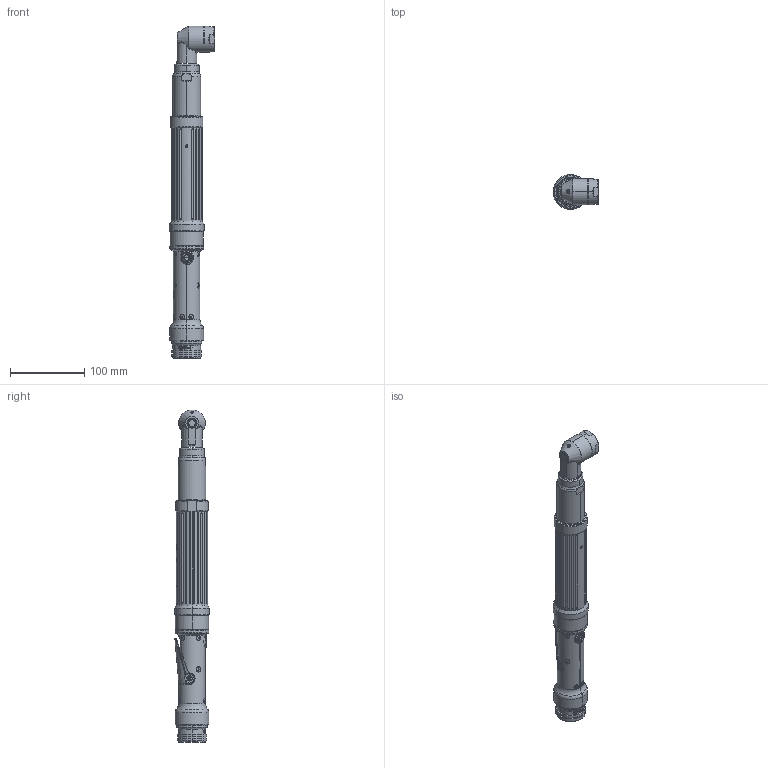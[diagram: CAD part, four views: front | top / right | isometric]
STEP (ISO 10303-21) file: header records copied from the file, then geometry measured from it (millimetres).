
FILE_DESCRIPTION (( 'STEP AP214' ), '1' );
FILE_NAME ('AEN33053CF.STEP', '2016-04-15T16:18:45', ( 'AIMCO' ), ( '' ), 'SwSTEP 2.0', 'SolidWorks 2016', '' );
FILE_SCHEMA (( 'AUTOMOTIVE_DESIGN' ));
Length unit declared in the file: inch
Products named in the file (1): AEN33053CF
Bounding box: 61.21 x 46.99 x 445.78 mm (x, y, z)
Surface area: 87006.9 mm2 (no closed solid volume)
Topology: 0 solids, 100 shells, 810 faces, 3047 edges, 2216 vertices
Faces by surface type: cylinder 208, plane 162, cone 139, bspline 136, torus 119, sphere 46
Entity records: 61622 total; most frequent: CARTESIAN_POINT 28419, ORIENTED_EDGE 4400, DIRECTION 4117, EDGE_CURVE 2967, VERTEX_POINT 2176, AXIS2_PLACEMENT_3D 1637, B_SPLINE_CURVE_WITH_KNOTS 1119, CIRCLE 962
